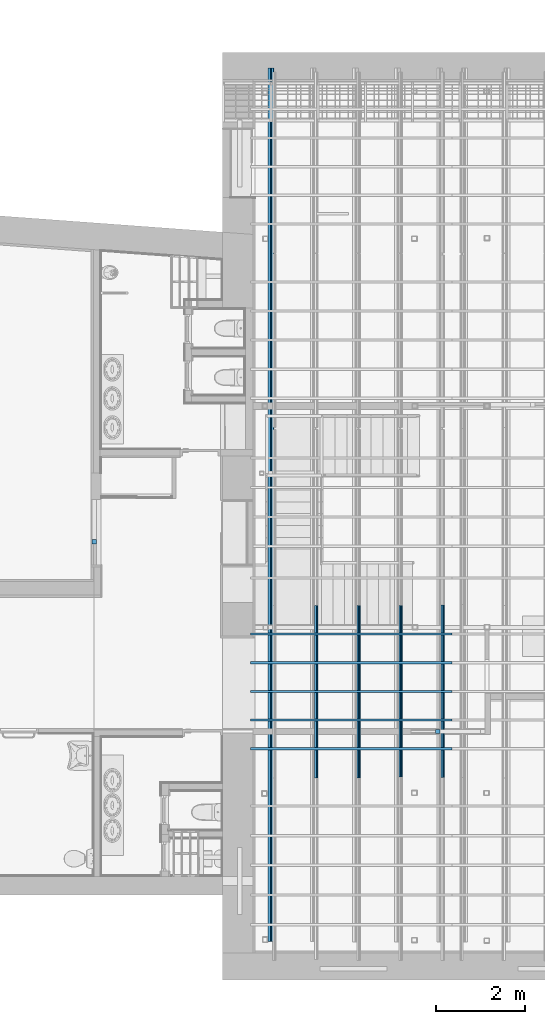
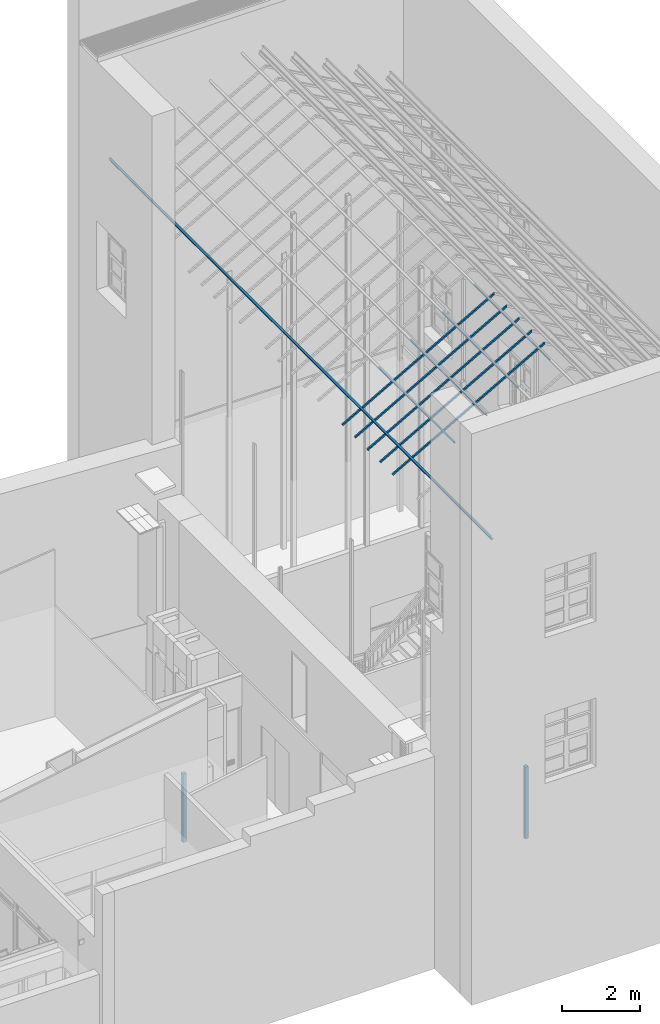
# One storey, part 17 of 75: 10 beams, 2 members, 2 elements without a shape of their own.
"""IFC2X3 building model written with IfcOpenShell, lengths in metres."""

from ifc_helpers import new_model, entity, si_unit, converted_unit, derived_unit, direction, frame, frame_2d, origin, origin_2d_with_axis, place, context, subcontext, project, spatial, polyline, circle_curve, parameter, trimmed, segment, composite_curve, rectangle, outline, extrude, clip, halfspace, source, transform, mapped, material, type_object, type_shapes, element, aggregate, save


model = new_model("IFC2X3")

# Units and contexts
model_context = context("Model", 3, precision=1e-05, world=origin(), true_north=direction((6.12303176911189e-17, 1.0)))
body_context = subcontext(model_context, "Body", "Model", "MODEL_VIEW")
ifc_project = project(units=[si_unit("LENGTHUNIT", "METRE"), si_unit("AREAUNIT", "SQUARE_METRE"), si_unit("VOLUMEUNIT", "CUBIC_METRE"), converted_unit("PLANEANGLEUNIT", "DEGREE", entity("IfcRatioMeasure", 0.0174532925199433), si_unit("PLANEANGLEUNIT", "RADIAN"), dimensions=[0, 0, 0, 0, 0, 0, 0]), si_unit("MASSUNIT", "GRAM", prefix="KILO"), derived_unit("MASSDENSITYUNIT", [(si_unit("MASSUNIT", "GRAM", prefix="KILO"), 1), (si_unit("LENGTHUNIT", "METRE"), -3)]), derived_unit("MOMENTOFINERTIAUNIT", [(si_unit("LENGTHUNIT", "METRE"), 4)]), si_unit("TIMEUNIT", "SECOND"), si_unit("FREQUENCYUNIT", "HERTZ"), si_unit("THERMODYNAMICTEMPERATUREUNIT", "DEGREE_CELSIUS"), derived_unit("THERMALTRANSMITTANCEUNIT", [(si_unit("MASSUNIT", "GRAM", prefix="KILO"), 1), (si_unit("THERMODYNAMICTEMPERATUREUNIT", "KELVIN"), -1), (si_unit("TIMEUNIT", "SECOND"), -3)]), derived_unit("VOLUMETRICFLOWRATEUNIT", [(si_unit("LENGTHUNIT", "METRE"), 3), (si_unit("TIMEUNIT", "SECOND"), -1)]), si_unit("ELECTRICCURRENTUNIT", "AMPERE"), si_unit("ELECTRICVOLTAGEUNIT", "VOLT"), si_unit("POWERUNIT", "WATT"), si_unit("FORCEUNIT", "NEWTON", prefix="KILO"), si_unit("ILLUMINANCEUNIT", "LUX"), si_unit("LUMINOUSFLUXUNIT", "LUMEN"), si_unit("LUMINOUSINTENSITYUNIT", "CANDELA"), derived_unit("USERDEFINED", [(si_unit("MASSUNIT", "GRAM", prefix="KILO"), -1), (si_unit("LENGTHUNIT", "METRE"), -2), (si_unit("TIMEUNIT", "SECOND"), 3), (si_unit("LUMINOUSFLUXUNIT", "LUMEN"), 1)]), derived_unit("LINEARVELOCITYUNIT", [(si_unit("LENGTHUNIT", "METRE"), 1), (si_unit("TIMEUNIT", "SECOND"), -1)]), si_unit("PRESSUREUNIT", "PASCAL"), derived_unit("USERDEFINED", [(si_unit("LENGTHUNIT", "METRE"), -2), (si_unit("MASSUNIT", "GRAM", prefix="KILO"), 1), (si_unit("TIMEUNIT", "SECOND"), -2)]), derived_unit("LINEARFORCEUNIT", [(si_unit("MASSUNIT", "GRAM", prefix="KILO"), 1), (si_unit("LENGTHUNIT", "METRE"), 1), (si_unit("TIMEUNIT", "SECOND"), -2), (si_unit("LENGTHUNIT", "METRE"), -1)]), derived_unit("PLANARFORCEUNIT", [(si_unit("MASSUNIT", "GRAM", prefix="KILO"), 1), (si_unit("LENGTHUNIT", "METRE"), 1), (si_unit("TIMEUNIT", "SECOND"), -2), (si_unit("LENGTHUNIT", "METRE"), -2)])], contexts=[model_context])

# Site, building, storey
site_placement = place(None, origin())
site = spatial("IfcSite", under=ifc_project, at=site_placement, Name="Superficie", CompositionType="ELEMENT")
building_placement = place(site_placement, origin())
building = spatial("IfcBuilding", under=site, at=building_placement, Name="Telegestiones", CompositionType="ELEMENT")
storey_placement = place(building_placement, origin())
storey = spatial("IfcBuildingStorey", under=building, at=storey_placement, Name="Nivel 0_NPT", CompositionType="ELEMENT", Elevation=0.0)

# Beams
ifc_material_1 = material(Name="Metal - Acero - 345 MPa")
beam_type_1 = type_object("IfcBeamType", Name="EST-PER-C-HGalv:C150X19.3", PredefinedType="NOTDEFINED")
beam_1_placement = place(storey_placement, frame((6.46380672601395, 13.523607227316, 13.465502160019), z_axis=(0.0, 0.0, 1.0), x_axis=(0.0, -1.0, 0.0)))
element("IfcBeam", 1, at=beam_1_placement, inside=storey, type_object=beam_type_1, material=ifc_material_1, Name="EST-PER-C-HGalv:C150X19.3", ObjectType="EST-PER-C-HGalv:C150X19.3", context=body_context, shape_type="SweptSolid", body=[
    extrude(outline(polyline([(-0.0203333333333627, -0.0799999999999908), (0.0396666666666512, -0.0799999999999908), (0.0396666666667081, 0.0800000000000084), (-0.0203333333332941, 0.0800000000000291), (-0.0203333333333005, 0.0600000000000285), (-0.0183333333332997, 0.0600000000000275), (-0.0183333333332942, 0.0780000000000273), (0.0376666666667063, 0.0780000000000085), (0.0376666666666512, -0.0779999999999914), (-0.0183333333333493, -0.0779999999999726), (-0.0183333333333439, -0.0599999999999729), (-0.0203333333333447, -0.0599999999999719), (-0.0203333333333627, -0.0799999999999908)])), frame((-0.470000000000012, -0.0162169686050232, 0.082721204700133), z_axis=(1.0, 0.0, 0.0), x_axis=(0.0, -0.870679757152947, -0.491850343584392)), (0.0, 0.0, 1.0), 19.537),
])
beam_type_2 = type_object("IfcBeamType", Name="IPN - Secciones en I con alas cónicas:IPN 80", PredefinedType="NOTDEFINED")
beam_2_placement = place(storey_placement, frame((10.2618424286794, -1.86639277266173, 15.6110271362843), z_axis=(0.0, 0.0, 1.0), x_axis=(0.0, 1.0, 0.0)))
element("IfcBeam", 2, at=beam_2_placement, inside=storey, type_object=beam_type_2, material=ifc_material_1, Name="IPN - Secciones en I con alas cónicas:IPN 80", ObjectType="IPN - Secciones en I con alas cónicas:IPN 80", context=body_context, shape_type="SweptSolid", body=[
    extrude(outline(composite_curve([segment(polyline([(-0.0209999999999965, -0.040000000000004), (0.0210000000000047, -0.040000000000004)]), True, "CONTINUOUS"), segment(polyline([(0.0210000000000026, -0.0400000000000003), (0.0210000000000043, -0.0375704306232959)]), True, "CONTINUOUS"), segment(trimmed(circle_curve(frame_2d((0.0187000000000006, -0.0375704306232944), x_axis=(1.0, 0.0)), 0.00230000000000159), [parameter(0.0)], [parameter(82.0303896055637)], True, "PARAMETER"), True, "CONTINUOUS"), segment(polyline([(0.0190188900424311, -0.0352926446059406), (0.00530927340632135, -0.0333732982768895)]), True, "CONTINUOUS"), segment(trimmed(circle_curve(frame_2d((0.00585000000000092, -0.0295109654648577), x_axis=(-0.138647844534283, -0.990341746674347)), 0.0038999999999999), [parameter(277.969610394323)], [parameter(0.0)], True, "PARAMETER"), False, "CONTINUOUS"), segment(polyline([(0.00195000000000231, -0.0295109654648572), (0.00194999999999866, 0.0295109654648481)]), True, "CONTINUOUS"), segment(trimmed(circle_curve(frame_2d((0.0058499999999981, 0.0295109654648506), x_axis=(-1.0, 0.0)), 0.00390000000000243), [parameter(277.969610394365)], [parameter(0.0)], True, "PARAMETER"), False, "CONTINUOUS"), segment(polyline([(0.00530927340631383, 0.0333732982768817), (0.0190188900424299, 0.0352926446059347)]), True, "CONTINUOUS"), segment(trimmed(circle_curve(frame_2d((0.0186999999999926, 0.0375704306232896), x_axis=(0.138647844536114, -0.990341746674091)), 0.00230000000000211), [parameter(0.0)], [parameter(82.0303896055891)], True, "PARAMETER"), True, "CONTINUOUS"), segment(polyline([(0.0209999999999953, 0.03757043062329), (0.020999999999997, 0.0399999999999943)]), True, "CONTINUOUS"), segment(polyline([(0.0209999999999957, 0.0400000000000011), (-0.0210000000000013, 0.0399999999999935)]), True, "CONTINUOUS"), segment(polyline([(-0.0210000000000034, 0.0399999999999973), (-0.0210000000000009, 0.0375704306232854)]), True, "CONTINUOUS"), segment(trimmed(circle_curve(frame_2d((-0.0187000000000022, 0.0375704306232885), x_axis=(-1.0, 0.0)), 0.00230000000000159), [parameter(0.0)], [parameter(82.0303896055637)], True, "PARAMETER"), True, "CONTINUOUS"), segment(polyline([(-0.019018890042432, 0.0352926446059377), (-0.00530927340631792, 0.033373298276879)]), True, "CONTINUOUS"), segment(trimmed(circle_curve(frame_2d((-0.00585000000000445, 0.0295109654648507), x_axis=(0.138647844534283, 0.990341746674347)), 0.0038999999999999), [parameter(277.969610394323)], [parameter(0.0)], True, "PARAMETER"), False, "CONTINUOUS"), segment(polyline([(-0.00195000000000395, 0.0295109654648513), (-0.00194999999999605, -0.0295109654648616)]), True, "CONTINUOUS"), segment(trimmed(circle_curve(frame_2d((-0.00585000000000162, -0.0295109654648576), x_axis=(1.0, 0.0)), 0.00390000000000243), [parameter(277.969610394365)], [parameter(0.0)], True, "PARAMETER"), False, "CONTINUOUS"), segment(polyline([(-0.00530927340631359, -0.0333732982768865), (-0.0190188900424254, -0.0352926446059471)]), True, "CONTINUOUS"), segment(trimmed(circle_curve(frame_2d((-0.0186999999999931, -0.0375704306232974), x_axis=(-0.138647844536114, 0.990341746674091)), 0.00230000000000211), [parameter(0.0)], [parameter(82.0303896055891)], True, "PARAMETER"), True, "CONTINUOUS"), segment(polyline([(-0.0209999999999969, -0.0375704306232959), (-0.0209999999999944, -0.0400000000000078)]), True, "CONTINUOUS")], self_intersect=False)), frame((-0.0138500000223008, -0.0245925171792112, -0.0435339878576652), z_axis=(1.0, 0.0, 0.0), x_axis=(0.0, -0.870679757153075, 0.491850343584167)), (0.0, 0.0, 1.0), 3.85865000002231),
])
beam_3_placement = place(storey_placement, frame((9.31797115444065, -1.8551927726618, 15.0778306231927), z_axis=(0.0, 0.0, 1.0), x_axis=(0.0, 1.0, 0.0)))
element("IfcBeam", 3, at=beam_3_placement, inside=storey, type_object=beam_type_2, material=ifc_material_1, Name="IPN - Secciones en I con alas cónicas:IPN 80", ObjectType="IPN - Secciones en I con alas cónicas:IPN 80", context=body_context, shape_type="SweptSolid", body=[
    extrude(outline(composite_curve([segment(polyline([(-0.0209999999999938, -0.0400000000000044), (0.0210000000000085, -0.0400000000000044)]), True, "CONTINUOUS"), segment(polyline([(0.0210000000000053, -0.0399999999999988), (0.021000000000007, -0.0375704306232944)]), True, "CONTINUOUS"), segment(trimmed(circle_curve(frame_2d((0.018700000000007, -0.0375704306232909), x_axis=(1.0, 0.0)), 0.00229999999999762), [parameter(0.0)], [parameter(82.0303896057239)], True, "PARAMETER"), True, "CONTINUOUS"), segment(polyline([(0.0190188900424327, -0.0352926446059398), (0.00530927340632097, -0.0333732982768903)]), True, "CONTINUOUS"), segment(trimmed(circle_curve(frame_2d((0.00585000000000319, -0.0295109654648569), x_axis=(-0.138647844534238, -0.990341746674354)), 0.00389999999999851), [parameter(277.969610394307)], [parameter(0.0)], True, "PARAMETER"), False, "CONTINUOUS"), segment(polyline([(0.00195000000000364, -0.0295109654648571), (0.00194999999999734, 0.0295109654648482)]), True, "CONTINUOUS"), segment(trimmed(circle_curve(frame_2d((0.00584999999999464, 0.0295109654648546), x_axis=(-1.0, 0.0)), 0.00389999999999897), [parameter(277.969610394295)], [parameter(0.0)], True, "PARAMETER"), False, "CONTINUOUS"), segment(polyline([(0.00530927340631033, 0.0333732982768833), (0.0190188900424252, 0.0352926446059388)]), True, "CONTINUOUS"), segment(trimmed(circle_curve(frame_2d((0.0186999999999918, 0.037570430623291), x_axis=(0.138647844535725, -0.990341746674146)), 0.00230000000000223), [parameter(0.0)], [parameter(82.0303896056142)], True, "PARAMETER"), True, "CONTINUOUS"), segment(polyline([(0.0209999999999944, 0.0375704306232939), (0.020999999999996, 0.0399999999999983)]), True, "CONTINUOUS"), segment(polyline([(0.020999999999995, 0.0400000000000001), (-0.021000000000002, 0.0399999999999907)]), True, "CONTINUOUS"), segment(polyline([(-0.0210000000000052, 0.0399999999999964), (-0.0210000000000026, 0.0375704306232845)]), True, "CONTINUOUS"), segment(trimmed(circle_curve(frame_2d((-0.0187000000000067, 0.0375704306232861), x_axis=(-1.0, 0.0)), 0.00229999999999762), [parameter(0.0)], [parameter(82.0303896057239)], True, "PARAMETER"), True, "CONTINUOUS"), segment(polyline([(-0.0190188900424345, 0.0352926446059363), (-0.00530927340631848, 0.0333732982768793)]), True, "CONTINUOUS"), segment(trimmed(circle_curve(frame_2d((-0.00585000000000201, 0.0295109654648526), x_axis=(0.138647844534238, 0.990341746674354)), 0.00389999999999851), [parameter(277.969610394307)], [parameter(0.0)], True, "PARAMETER"), False, "CONTINUOUS"), segment(polyline([(-0.00195000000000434, 0.0295109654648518), (-0.00194999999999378, -0.0295109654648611)]), True, "CONTINUOUS"), segment(trimmed(circle_curve(frame_2d((-0.0058499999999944, -0.0295109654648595), x_axis=(1.0, 0.0)), 0.00389999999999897), [parameter(277.969610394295)], [parameter(0.0)], True, "PARAMETER"), False, "CONTINUOUS"), segment(polyline([(-0.00530927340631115, -0.0333732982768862), (-0.0190188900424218, -0.0352926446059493)]), True, "CONTINUOUS"), segment(trimmed(circle_curve(frame_2d((-0.0186999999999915, -0.0375704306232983), x_axis=(-0.138647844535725, 0.990341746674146)), 0.00230000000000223), [parameter(0.0)], [parameter(82.0303896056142)], True, "PARAMETER"), True, "CONTINUOUS"), segment(polyline([(-0.0209999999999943, -0.0375704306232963), (-0.0209999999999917, -0.0400000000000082)]), True, "CONTINUOUS")], self_intersect=False)), frame((-0.0138500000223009, -0.0245925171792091, -0.0435339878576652), z_axis=(1.0, 0.0, 0.0), x_axis=(0.0, -0.870679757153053, 0.491850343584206)), (0.0, 0.0, 1.0), 3.8408500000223),
])
beam_4_placement = place(storey_placement, frame((8.37409988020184, -1.8751927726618, 14.5446341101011), z_axis=(0.0, 0.0, 1.0), x_axis=(0.0, 1.0, 0.0)))
element("IfcBeam", 4, at=beam_4_placement, inside=storey, type_object=beam_type_2, material=ifc_material_1, Name="IPN - Secciones en I con alas cónicas:IPN 80", ObjectType="IPN - Secciones en I con alas cónicas:IPN 80", context=body_context, shape_type="SweptSolid", body=[
    extrude(outline(composite_curve([segment(polyline([(-0.0209999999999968, -0.0399999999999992), (0.0210000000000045, -0.0399999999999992)]), True, "CONTINUOUS"), segment(polyline([(0.0210000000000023, -0.0399999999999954), (0.0210000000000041, -0.0375704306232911)]), True, "CONTINUOUS"), segment(trimmed(circle_curve(frame_2d((0.0187000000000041, -0.0375704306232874), x_axis=(1.0, 0.0)), 0.00229999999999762), [parameter(0.0)], [parameter(82.0303896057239)], True, "PARAMETER"), True, "CONTINUOUS"), segment(polyline([(0.01901889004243, -0.0352926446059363), (0.00530927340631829, -0.0333732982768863)]), True, "CONTINUOUS"), segment(trimmed(circle_curve(frame_2d((0.00585000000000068, -0.0295109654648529), x_axis=(-0.138647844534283, -0.990341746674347)), 0.00389999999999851), [parameter(277.969610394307)], [parameter(0.0)], True, "PARAMETER"), False, "CONTINUOUS"), segment(polyline([(0.00195000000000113, -0.0295109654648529), (0.00194999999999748, 0.0295109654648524)]), True, "CONTINUOUS"), segment(trimmed(circle_curve(frame_2d((0.00584999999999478, 0.0295109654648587), x_axis=(-1.0, 0.0)), 0.00389999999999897), [parameter(277.969610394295)], [parameter(0.0)], True, "PARAMETER"), False, "CONTINUOUS"), segment(polyline([(0.00530927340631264, 0.033373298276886), (0.0190188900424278, 0.0352926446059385)]), True, "CONTINUOUS"), segment(trimmed(circle_curve(frame_2d((0.0186999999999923, 0.0375704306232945), x_axis=(0.138647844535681, -0.990341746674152)), 0.00230000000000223), [parameter(0.0)], [parameter(82.0303896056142)], True, "PARAMETER"), True, "CONTINUOUS"), segment(polyline([(0.020999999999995, 0.0375704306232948), (0.0209999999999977, 0.0399999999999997)]), True, "CONTINUOUS"), segment(polyline([(0.0209999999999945, 0.0400000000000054), (-0.0210000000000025, 0.0399999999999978)]), True, "CONTINUOUS"), segment(polyline([(-0.0210000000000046, 0.0400000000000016), (-0.021000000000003, 0.0375704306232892)]), True, "CONTINUOUS"), segment(trimmed(circle_curve(frame_2d((-0.0187000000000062, 0.0375704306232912), x_axis=(-1.0, 0.0)), 0.00229999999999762), [parameter(0.0)], [parameter(82.0303896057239)], True, "PARAMETER"), True, "CONTINUOUS"), segment(polyline([(-0.0190188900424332, 0.035292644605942), (-0.00530927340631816, 0.0333732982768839)]), True, "CONTINUOUS"), segment(trimmed(circle_curve(frame_2d((-0.00585000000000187, 0.0295109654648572), x_axis=(0.138647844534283, 0.990341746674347)), 0.00389999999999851), [parameter(277.969610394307)], [parameter(0.0)], True, "PARAMETER"), False, "CONTINUOUS"), segment(polyline([(-0.00195000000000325, 0.0295109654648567), (-0.00194999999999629, -0.0295109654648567)]), True, "CONTINUOUS"), segment(trimmed(circle_curve(frame_2d((-0.00584999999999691, -0.0295109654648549), x_axis=(1.0, 0.0)), 0.00389999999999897), [parameter(277.969610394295)], [parameter(0.0)], True, "PARAMETER"), False, "CONTINUOUS"), segment(polyline([(-0.00530927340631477, -0.0333732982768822), (-0.0190188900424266, -0.0352926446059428)]), True, "CONTINUOUS"), segment(trimmed(circle_curve(frame_2d((-0.0186999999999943, -0.0375704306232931), x_axis=(-0.13864784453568, 0.990341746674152)), 0.00230000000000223), [parameter(0.0)], [parameter(82.0303896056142)], True, "PARAMETER"), True, "CONTINUOUS"), segment(polyline([(-0.0209999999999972, -0.0375704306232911), (-0.0209999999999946, -0.040000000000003)]), True, "CONTINUOUS")], self_intersect=False)), frame((-0.013850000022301, -0.024592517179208, -0.0435339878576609), z_axis=(1.0, 0.0, 0.0), x_axis=(0.0, -0.870679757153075, 0.491850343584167)), (0.0, 0.0, 1.0), 3.8608500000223),
])
beam_5_placement = place(storey_placement, frame((7.43022860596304, -1.8751927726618, 14.0114375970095), z_axis=(0.0, 0.0, 1.0), x_axis=(0.0, 1.0, 0.0)))
element("IfcBeam", 5, at=beam_5_placement, inside=storey, type_object=beam_type_2, material=ifc_material_1, Name="IPN - Secciones en I con alas cónicas:IPN 80", ObjectType="IPN - Secciones en I con alas cónicas:IPN 80", context=body_context, shape_type="SweptSolid", body=[
    extrude(outline(composite_curve([segment(polyline([(-0.0209999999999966, -0.0400000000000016), (0.0210000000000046, -0.0400000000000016)]), True, "CONTINUOUS"), segment(polyline([(0.0210000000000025, -0.0399999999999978), (0.0210000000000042, -0.0375704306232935)]), True, "CONTINUOUS"), segment(trimmed(circle_curve(frame_2d((0.0187000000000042, -0.0375704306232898), x_axis=(1.0, 0.0)), 0.00229999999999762), [parameter(0.0)], [parameter(82.0303896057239)], True, "PARAMETER"), True, "CONTINUOUS"), segment(polyline([(0.0190188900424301, -0.0352926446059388), (0.00530927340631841, -0.0333732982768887)]), True, "CONTINUOUS"), segment(trimmed(circle_curve(frame_2d((0.0058500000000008, -0.0295109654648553), x_axis=(-0.138647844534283, -0.990341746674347)), 0.00389999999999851), [parameter(277.969610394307)], [parameter(0.0)], True, "PARAMETER"), False, "CONTINUOUS"), segment(polyline([(0.00195000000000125, -0.0295109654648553), (0.0019499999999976, 0.02951096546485)]), True, "CONTINUOUS"), segment(trimmed(circle_curve(frame_2d((0.0058499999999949, 0.0295109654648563), x_axis=(-1.0, 0.0)), 0.00389999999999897), [parameter(277.969610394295)], [parameter(0.0)], True, "PARAMETER"), False, "CONTINUOUS"), segment(polyline([(0.00530927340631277, 0.0333732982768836), (0.0190188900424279, 0.0352926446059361)]), True, "CONTINUOUS"), segment(trimmed(circle_curve(frame_2d((0.0186999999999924, 0.0375704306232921), x_axis=(0.13864784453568, -0.990341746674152)), 0.00230000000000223), [parameter(0.0)], [parameter(82.0303896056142)], True, "PARAMETER"), True, "CONTINUOUS"), segment(polyline([(0.0209999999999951, 0.0375704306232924), (0.0209999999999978, 0.0399999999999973)]), True, "CONTINUOUS"), segment(polyline([(0.0209999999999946, 0.040000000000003), (-0.0210000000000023, 0.0399999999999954)]), True, "CONTINUOUS"), segment(polyline([(-0.0210000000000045, 0.0399999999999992), (-0.0210000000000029, 0.0375704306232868)]), True, "CONTINUOUS"), segment(trimmed(circle_curve(frame_2d((-0.0187000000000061, 0.0375704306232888), x_axis=(-1.0, 0.0)), 0.00229999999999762), [parameter(0.0)], [parameter(82.0303896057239)], True, "PARAMETER"), True, "CONTINUOUS"), segment(polyline([(-0.019018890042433, 0.0352926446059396), (-0.00530927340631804, 0.0333732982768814)]), True, "CONTINUOUS"), segment(trimmed(circle_curve(frame_2d((-0.00585000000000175, 0.0295109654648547), x_axis=(0.138647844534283, 0.990341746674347)), 0.00389999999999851), [parameter(277.969610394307)], [parameter(0.0)], True, "PARAMETER"), False, "CONTINUOUS"), segment(polyline([(-0.00195000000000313, 0.0295109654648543), (-0.00194999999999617, -0.0295109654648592)]), True, "CONTINUOUS"), segment(trimmed(circle_curve(frame_2d((-0.00584999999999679, -0.0295109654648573), x_axis=(1.0, 0.0)), 0.00389999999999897), [parameter(277.969610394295)], [parameter(0.0)], True, "PARAMETER"), False, "CONTINUOUS"), segment(polyline([(-0.00530927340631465, -0.0333732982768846), (-0.0190188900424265, -0.0352926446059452)]), True, "CONTINUOUS"), segment(trimmed(circle_curve(frame_2d((-0.0186999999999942, -0.0375704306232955), x_axis=(-0.138647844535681, 0.990341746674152)), 0.00230000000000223), [parameter(0.0)], [parameter(82.0303896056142)], True, "PARAMETER"), True, "CONTINUOUS"), segment(polyline([(-0.020999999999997, -0.0375704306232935), (-0.0209999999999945, -0.0400000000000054)]), True, "CONTINUOUS")], self_intersect=False)), frame((-0.0138500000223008, -0.0245925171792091, -0.0435339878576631), z_axis=(1.0, 0.0, 0.0), x_axis=(0.0, -0.870679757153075, 0.491850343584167)), (0.0, 0.0, 1.0), 3.8608500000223),
])

# Curtain wall, member
curtain_wall_type_1 = type_object("IfcCurtainWallType", PredefinedType="NOTDEFINED")
curtain_wall_1_placement = place(storey_placement, origin())
curtain_wall_1 = element("IfcCurtainWall", 6, at=curtain_wall_1_placement, inside=storey, type_object=curtain_wall_type_1)
ifc_material_2 = material(Name="Aluminio")
member_type_1 = type_object("IfcMemberType", Name="Montante rectangular:10x10", PredefinedType="MULLION", material=ifc_material_2)
shared_shape_1 = source(origin(), body_context, "Body", "SweptSolid", [
    extrude(rectangle(XDim=0.1, YDim=0.1, at=origin_2d_with_axis()), frame((0.05, 0.0, -2.15), z_axis=(0.0, 0.0, 1.0), x_axis=(0.0, -1.0, 0.0)), (0.0, 0.0, 1.0), 2.15),
])
type_shapes(member_type_1, [shared_shape_1])
member_1_placement = place(curtain_wall_1_placement, frame((2.48532576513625, 3.34860365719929, 0.0), z_axis=(0.0, 0.0, -1.0), x_axis=(0.0, 1.0, 0.0)))
member_1 = element("IfcMember", 7, at=member_1_placement, type_object=member_type_1, Name="Montante rectangular:10x10", ObjectType="Montante rectangular:10x10", context=body_context, shape_type="MappedRepresentation", body=[
    mapped(shared_shape_1, transform((0.0, 0.0, 0.0), scale=1.0)),
])
aggregate(curtain_wall_1, [member_1])

curtain_wall_type_2 = type_object("IfcCurtainWallType", PredefinedType="NOTDEFINED")
curtain_wall_2_placement = place(storey_placement, origin())
curtain_wall_2 = element("IfcCurtainWall", 8, at=curtain_wall_2_placement, inside=storey, type_object=curtain_wall_type_2)
member_type_2 = type_object("IfcMemberType", Name="Montante rectangular:10x10", PredefinedType="MULLION", material=ifc_material_2)
shared_shape_2 = source(origin(), body_context, "Body", "SweptSolid", [
    extrude(rectangle(XDim=0.1, YDim=0.1, at=origin_2d_with_axis()), frame((0.05, 0.0, -2.25), z_axis=(0.0, 0.0, 1.0), x_axis=(0.0, -1.0, 0.0)), (0.0, 0.0, 1.0), 2.25),
])
type_shapes(member_type_2, [shared_shape_2])
member_2_placement = place(curtain_wall_2_placement, frame((10.2238493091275, -0.846462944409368, 0.0), z_axis=(0.0, 0.0, -1.0), x_axis=(-1.0, 0.0, 0.0)))
member_2 = element("IfcMember", 9, at=member_2_placement, type_object=member_type_2, Name="Montante rectangular:10x10", ObjectType="Montante rectangular:10x10", context=body_context, shape_type="MappedRepresentation", body=[
    mapped(shared_shape_2, transform((0.0, 0.0, 0.0), scale=1.0)),
])
aggregate(curtain_wall_2, [member_2])

# Beams
ifc_material_3 = material(Name="Madera - Madera de construcción")
beam_type_3 = type_object("IfcBeamType", Name="Madera:50x50mm", PredefinedType="NOTDEFINED")
beam_6_placement = place(storey_placement, frame((6.01059937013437, 0.693273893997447, 13.2094835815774), z_axis=(-0.491850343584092, 0.0, 0.870679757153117), x_axis=(0.870679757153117, 0.0, 0.491850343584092)))
element("IfcBeam", 10, at=beam_6_placement, inside=storey, type_object=beam_type_3, material=ifc_material_3, Name="Madera:50x50mm", ObjectType="Madera:50x50mm", context=body_context, shape_type="SweptSolid", body=[
    clip(extrude(rectangle(XDim=0.0500000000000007, YDim=0.0500000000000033, at=frame_2d((9.41954847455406e-16, 0.0), x_axis=(1.0, 0.0))), frame((-0.0851437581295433, 0.0, -0.115), z_axis=(1.0, 0.0, 0.0), x_axis=(0.0, 0.0, -1.0)), (0.0, 0.0, 1.0), 5.1830202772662), halfspace(frame((5.06963132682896, 0.0, -0.140000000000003), z_axis=(0.870679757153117, 0.0, -0.491850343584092), x_axis=(0.0, -1.0, 0.0)), False)),
])
beam_7_placement = place(storey_placement, frame((6.01059937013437, 1.33544056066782, 13.2094835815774), z_axis=(-0.491850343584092, 0.0, 0.870679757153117), x_axis=(0.870679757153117, 0.0, 0.491850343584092)))
element("IfcBeam", 11, at=beam_7_placement, inside=storey, type_object=beam_type_3, material=ifc_material_3, Name="Madera:50x50mm", ObjectType="Madera:50x50mm", context=body_context, shape_type="SweptSolid", body=[
    clip(extrude(rectangle(XDim=0.0499999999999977, YDim=0.0500000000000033, at=frame_2d((2.41820452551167e-15, 0.0), x_axis=(1.0, 0.0))), frame((-0.0851437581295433, 0.0, -0.115000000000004), z_axis=(1.0, 0.0, 0.0), x_axis=(0.0, 0.0, -1.0)), (0.0, 0.0, 1.0), 5.18302027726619), halfspace(frame((5.06963132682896, 0.0, -0.140000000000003), z_axis=(0.870679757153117, 0.0, -0.491850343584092), x_axis=(0.0, -1.0, 0.0)), False)),
])
beam_8_placement = place(storey_placement, frame((6.01059937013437, 0.0511072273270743, 13.2094835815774), z_axis=(-0.491850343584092, 0.0, 0.870679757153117), x_axis=(0.870679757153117, 0.0, 0.491850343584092)))
element("IfcBeam", 12, at=beam_8_placement, inside=storey, type_object=beam_type_3, material=ifc_material_3, Name="Madera:50x50mm", ObjectType="Madera:50x50mm", context=body_context, shape_type="SweptSolid", body=[
    clip(extrude(rectangle(XDim=0.0500000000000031, YDim=0.0500000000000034, at=frame_2d((2.67147415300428e-16, -5.20417042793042e-18), x_axis=(1.0, 0.0))), frame((-0.0851437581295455, 0.0, -0.115), z_axis=(1.0, 0.0, 0.0), x_axis=(0.0, 0.0, -1.0)), (0.0, 0.0, 1.0), 5.1830202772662), halfspace(frame((5.06963132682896, 0.0, -0.140000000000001), z_axis=(0.870679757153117, 0.0, -0.491850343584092), x_axis=(0.0, -1.0, 0.0)), False)),
])
beam_9_placement = place(storey_placement, frame((6.01059937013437, -0.591059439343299, 13.2094835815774), z_axis=(-0.491850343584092, 0.0, 0.870679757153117), x_axis=(0.870679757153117, 0.0, 0.491850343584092)))
element("IfcBeam", 13, at=beam_9_placement, inside=storey, type_object=beam_type_3, material=ifc_material_3, Name="Madera:50x50mm", ObjectType="Madera:50x50mm", context=body_context, shape_type="SweptSolid", body=[
    clip(extrude(rectangle(XDim=0.0500000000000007, YDim=0.0500000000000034, at=frame_2d((9.41954847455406e-16, 3.29597460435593e-17), x_axis=(1.0, 0.0))), frame((-0.0851437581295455, 0.0, -0.115000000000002), z_axis=(1.0, 0.0, 0.0), x_axis=(0.0, 0.0, -1.0)), (0.0, 0.0, 1.0), 5.18302027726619), halfspace(frame((5.06963132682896, 0.0, -0.140000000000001), z_axis=(0.870679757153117, 0.0, -0.491850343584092), x_axis=(0.0, -1.0, 0.0)), False)),
])
beam_10_placement = place(storey_placement, frame((6.01059937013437, -1.23322610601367, 13.2094835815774), z_axis=(-0.491850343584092, 0.0, 0.870679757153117), x_axis=(0.870679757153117, 0.0, 0.491850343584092)))
element("IfcBeam", 14, at=beam_10_placement, inside=storey, type_object=beam_type_3, material=ifc_material_3, Name="Madera:50x50mm", ObjectType="Madera:50x50mm", context=body_context, shape_type="SweptSolid", body=[
    clip(extrude(rectangle(XDim=0.0500000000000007, YDim=0.0500000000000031, at=frame_2d((9.41954847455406e-16, 1.35308431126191e-16), x_axis=(1.0, 0.0))), frame((-0.0851437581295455, 0.0, -0.115000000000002), z_axis=(1.0, 0.0, 0.0), x_axis=(0.0, 0.0, -1.0)), (0.0, 0.0, 1.0), 5.18302027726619), halfspace(frame((5.06963132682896, 0.0, -0.140000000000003), z_axis=(0.870679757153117, 0.0, -0.491850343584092), x_axis=(0.0, -1.0, 0.0)), False)),
])

save(model, "model.ifc")
